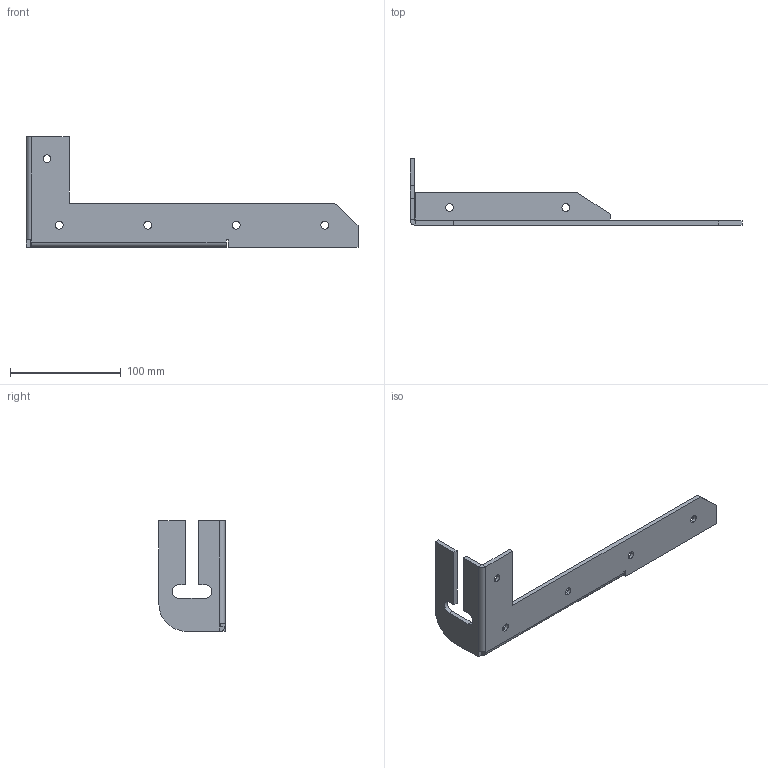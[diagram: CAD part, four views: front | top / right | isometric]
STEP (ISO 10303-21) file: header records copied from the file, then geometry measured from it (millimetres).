
FILE_DESCRIPTION (( 'STEP AP203' ), '1' );
FILE_NAME ('6200.300.STEP', '2020-09-30T11:05:09', ( '' ), ( '' ), 'SwSTEP 2.0', 'SolidWorks 2015', '' );
FILE_SCHEMA (( 'CONFIG_CONTROL_DESIGN' ));
Length unit declared in the file: millimetre
Products named in the file (1): 6200.300
Bounding box: 300 x 60 x 100 mm (x, y, z)
Volume: 88488.8 mm3; surface area: 49343.6 mm2
Topology: 1 solids, 1 shells, 66 faces, 170 edges, 106 vertices
Faces by surface type: plane 34, cylinder 22, cone 10
Entity records: 2097 total; most frequent: DIRECTION 358, CARTESIAN_POINT 343, ORIENTED_EDGE 340, EDGE_CURVE 170, AXIS2_PLACEMENT_3D 121, LINE 116, VECTOR 116, VERTEX_POINT 106
